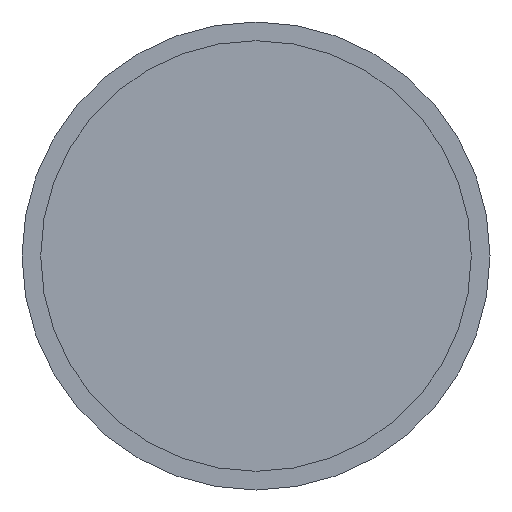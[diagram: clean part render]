
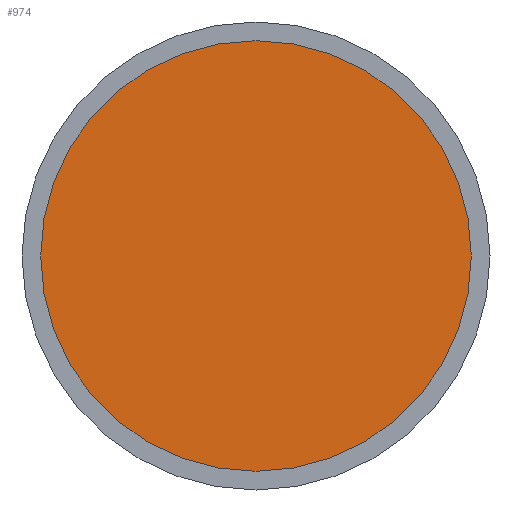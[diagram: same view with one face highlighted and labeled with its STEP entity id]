
A CAD part, front view. The second image highlights one B-rep face of the part: STEP entity #974.
In plain terms, the highlighted planar face has unit normal (0, -1, 0).
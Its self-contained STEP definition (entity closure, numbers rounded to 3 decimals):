
#10 = CARTESIAN_POINT ( 'NONE',  ( 0., 0., 0. ) ) ;
#303 = DIRECTION ( 'NONE',  ( 0., 1., 0. ) ) ;
#410 = CARTESIAN_POINT ( 'NONE',  ( 0., 0., 115. ) ) ;
#427 = EDGE_CURVE ( 'NONE', #468, #1931, #1088, .T. ) ;
#468 = VERTEX_POINT ( 'NONE', #3208 ) ;
#878 = AXIS2_PLACEMENT_3D ( 'NONE', #10, #303, #2898 ) ;
#974 = ADVANCED_FACE ( 'NONE', ( #2839 ), #2553, .F. ) ;
#1036 = DIRECTION ( 'NONE',  ( 0., 1., 0. ) ) ;
#1088 = CIRCLE ( 'NONE', #3565, 115. ) ;
#1226 = CIRCLE ( 'NONE', #2645, 115. ) ;
#1528 = EDGE_CURVE ( 'NONE', #1931, #468, #1226, .T. ) ;
#1652 = DIRECTION ( 'NONE',  ( 0., 0., 1. ) ) ;
#1931 = VERTEX_POINT ( 'NONE', #410 ) ;
#2272 = CARTESIAN_POINT ( 'NONE',  ( 0., 0., 0. ) ) ;
#2441 = CARTESIAN_POINT ( 'NONE',  ( 0., 0., 0. ) ) ;
#2553 = PLANE ( 'NONE',  #878 ) ;
#2645 = AXIS2_PLACEMENT_3D ( 'NONE', #2441, #1036, #2664 ) ;
#2664 = DIRECTION ( 'NONE',  ( 0., 0., 1. ) ) ;
#2839 = FACE_OUTER_BOUND ( 'NONE', #3271, .T. ) ;
#2898 = DIRECTION ( 'NONE',  ( 0., 0., 1. ) ) ;
#2918 = ORIENTED_EDGE ( 'NONE', *, *, #1528, .F. ) ;
#2959 = ORIENTED_EDGE ( 'NONE', *, *, #427, .F. ) ;
#3208 = CARTESIAN_POINT ( 'NONE',  ( 0., 0., -115. ) ) ;
#3271 = EDGE_LOOP ( 'NONE', ( #2959, #2918 ) ) ;
#3394 = DIRECTION ( 'NONE',  ( 0., 1., 0. ) ) ;
#3565 = AXIS2_PLACEMENT_3D ( 'NONE', #2272, #3394, #1652 ) ;
